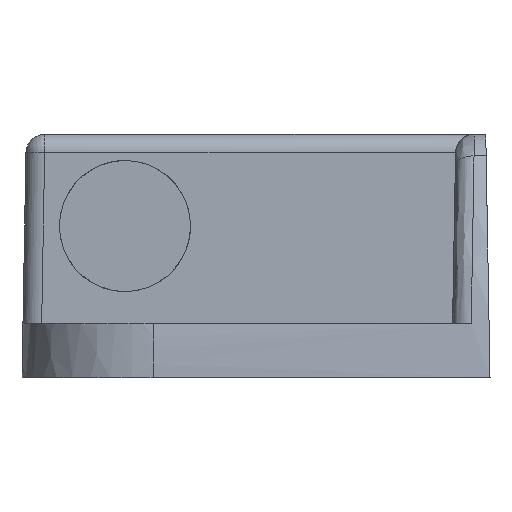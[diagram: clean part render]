
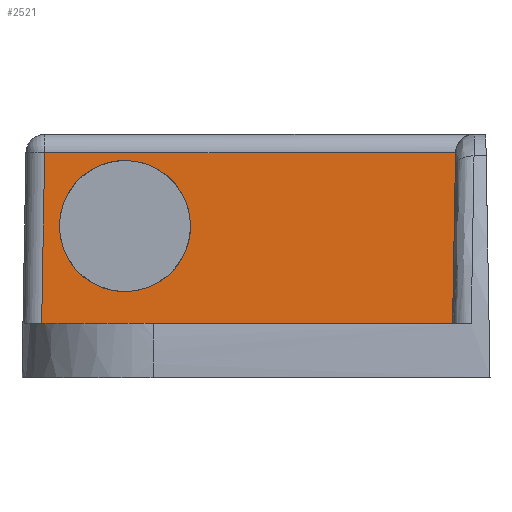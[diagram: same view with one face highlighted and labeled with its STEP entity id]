
A CAD part, left-side view. The second image highlights one B-rep face of the part: STEP entity #2521.
In plain terms, the highlighted planar face has unit normal (-1, 0, 0.018).
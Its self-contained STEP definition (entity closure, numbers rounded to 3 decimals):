
#21=FACE_BOUND('',#391,.T.);
#47=ELLIPSE('',#2558,3.501,3.5);
#252=FACE_OUTER_BOUND('',#390,.T.);
#390=EDGE_LOOP('',(#2244,#2245,#2246,#2247));
#391=EDGE_LOOP('',(#2248));
#679=LINE('',#4224,#972);
#691=LINE('',#4326,#984);
#692=LINE('',#4329,#985);
#693=LINE('',#4330,#986);
#972=VECTOR('',#3304,10.);
#984=VECTOR('',#3366,10.);
#985=VECTOR('',#3369,10.);
#986=VECTOR('',#3370,10.);
#1001=VERTEX_POINT('',#3430);
#1206=VERTEX_POINT('',#4222);
#1207=VERTEX_POINT('',#4223);
#1220=VERTEX_POINT('',#4324);
#1221=VERTEX_POINT('',#4328);
#1241=EDGE_CURVE('',#1001,#1001,#47,.T.);
#1544=EDGE_CURVE('',#1206,#1207,#679,.T.);
#1572=EDGE_CURVE('',#1207,#1220,#691,.T.);
#1573=EDGE_CURVE('',#1220,#1221,#692,.T.);
#1574=EDGE_CURVE('',#1221,#1206,#693,.T.);
#2244=ORIENTED_EDGE('',*,*,#1544,.T.);
#2245=ORIENTED_EDGE('',*,*,#1572,.T.);
#2246=ORIENTED_EDGE('',*,*,#1573,.T.);
#2247=ORIENTED_EDGE('',*,*,#1574,.T.);
#2248=ORIENTED_EDGE('',*,*,#1241,.F.);
#2393=PLANE('',#2719);
#2521=ADVANCED_FACE('',(#252,#21),#2393,.T.);
#2558=AXIS2_PLACEMENT_3D('',#3432,#2771,#2772);
#2719=AXIS2_PLACEMENT_3D('',#4327,#3367,#3368);
#2771=DIRECTION('center_axis',(-1.,0.,
0.017));
#2772=DIRECTION('ref_axis',(0.017,0.,1.));
#3304=DIRECTION('',(0.,1.,0.));
#3366=DIRECTION('',(-0.017,0.017,-1.));
#3367=DIRECTION('center_axis',(-1.,0.,
0.017));
#3368=DIRECTION('ref_axis',(0.,-1.,0.));
#3369=DIRECTION('',(0.,-1.,0.));
#3370=DIRECTION('',(0.017,-0.017,1.));
#3430=CARTESIAN_POINT('',(-33.97,19.5,4.6));
#3432=CARTESIAN_POINT('Origin',(-33.909,19.5,8.1));
#4222=CARTESIAN_POINT('',(-33.841,1.841,12.017));
#4223=CARTESIAN_POINT('',(-33.841,23.79,12.017));
#4224=CARTESIAN_POINT('',(-33.841,7.25,12.017));
#4324=CARTESIAN_POINT('',(-34.,23.95,2.9));
#4326=CARTESIAN_POINT('',(-34.024,23.973,1.546));
#4327=CARTESIAN_POINT('Origin',(-34.,2.,2.9));
#4328=CARTESIAN_POINT('',(-34.,2.,2.9));
#4329=CARTESIAN_POINT('',(-34.,26.,2.9));
#4330=CARTESIAN_POINT('',(-34.002,2.002,2.804));
